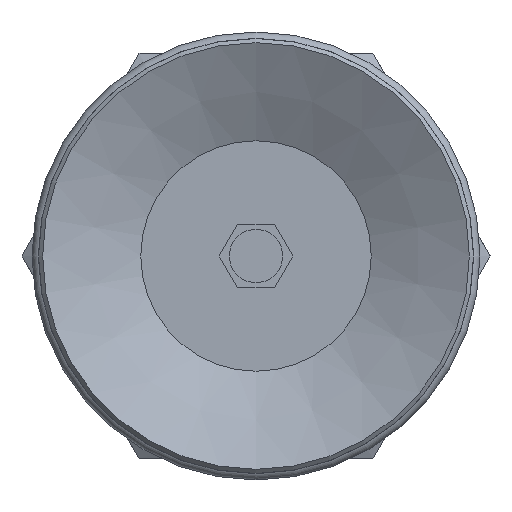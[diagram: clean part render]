
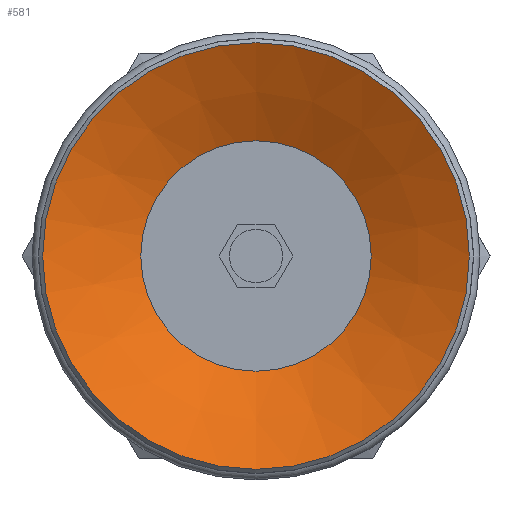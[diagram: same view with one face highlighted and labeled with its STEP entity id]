
A CAD part, front view. The second image highlights one B-rep face of the part: STEP entity #581.
In plain terms, the highlighted conical face has half-angle 63 degrees and reference radius 5.4 mm.
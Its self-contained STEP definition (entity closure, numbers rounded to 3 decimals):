
#581=ADVANCED_FACE('',(#889,#890),#891,.F.);
#889=FACE_BOUND('',#1204,.T.);
#890=FACE_OUTER_BOUND('',#1205,.T.);
#891=CONICAL_SURFACE('',#1206,5.4,1.1);
#1204=EDGE_LOOP('',(#2086));
#1205=EDGE_LOOP('',(#2087));
#1206=AXIS2_PLACEMENT_3D('',#2088,#2089,#2090);
#2086=ORIENTED_EDGE('',*,*,#2352,.F.);
#2087=ORIENTED_EDGE('',*,*,#2353,.T.);
#2088=CARTESIAN_POINT('',(0.0,5.518,0.0));
#2089=DIRECTION('',(-0.0,-1.0,0.));
#2090=DIRECTION('',(0.0,0.,-1.0));
#2352=EDGE_CURVE('',#2772,#2772,#2773,.T.);
#2353=EDGE_CURVE('',#2774,#2774,#2775,.T.);
#2772=VERTEX_POINT('',#3672);
#2773=CIRCLE('',#3673,5.4);
#2774=VERTEX_POINT('',#3674);
#2775=CIRCLE('',#3675,10.0);
#3672=CARTESIAN_POINT('',(0.0,5.518,-5.4));
#3673=AXIS2_PLACEMENT_3D('',#4042,#4043,#4044);
#3674=CARTESIAN_POINT('',(0.0,3.175,-10.0));
#3675=AXIS2_PLACEMENT_3D('',#4045,#4046,#4047);
#4042=CARTESIAN_POINT('',(0.0,5.518,0.0));
#4043=DIRECTION('',(0.0,-1.0,0.));
#4044=DIRECTION('',(0.0,0.,-1.0));
#4045=CARTESIAN_POINT('',(0.0,3.175,0.0));
#4046=DIRECTION('',(0.0,-1.0,0.));
#4047=DIRECTION('',(0.0,0.,-1.0));
